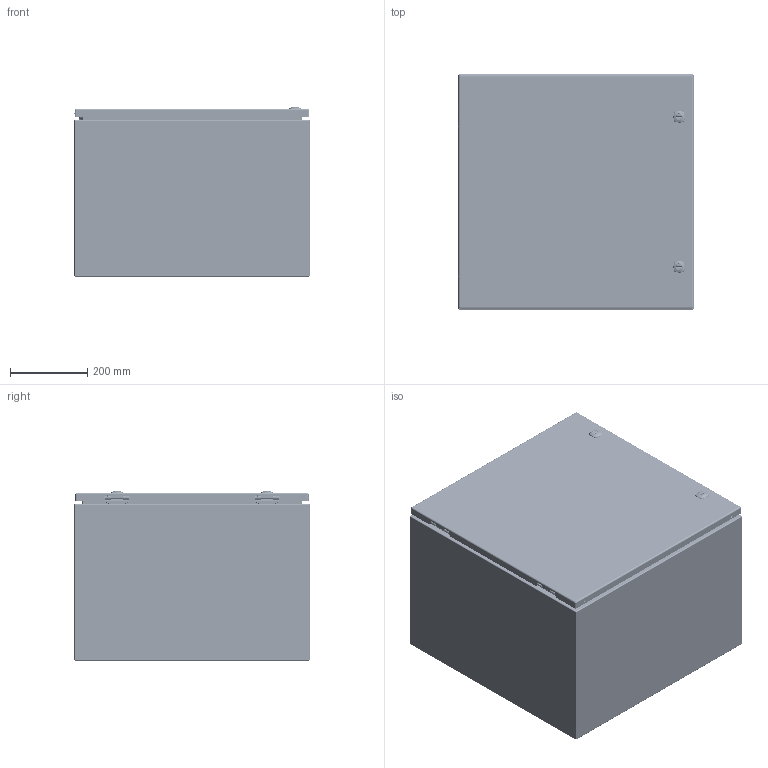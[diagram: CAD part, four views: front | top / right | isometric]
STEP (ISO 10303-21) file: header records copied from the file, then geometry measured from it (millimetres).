
FILE_DESCRIPTION(/* description */ ('5412ES 24" x 24" x 16" Assembly'),/* implementation_level */ '2;1');
FILE_NAME(/* name */ '5412ES242416.stp',/* time_stamp */ '2024-09-04T09:10:47-04:00',/* author */ ('BoxCad'),/* organization */ (''),/* preprocessor_version */ 'ST-DEVELOPER v20',/* originating_system */ 'Autodesk Inventor 2024',/* authorisation */ '');
FILE_SCHEMA (('AUTOMOTIVE_DESIGN { 1 0 10303 214 3 1 1 }'));
Products named in the file (44): 5412ES242416; 5412ES242416B; 5412ES242416B-P; STK-Q-16005; STUD_M6 x 16mm; 5412ES242416C; 5412ES242416C-P; 5412ES242416G; STK-K-09800-1; STK-K-09800-2; STK-Q-33014; STK-Q-90398; STK-Q-40095; STK-Q-63410; STK-Q-16055; STK-Q-46020-24; STK-Q-07220-1; STK-Q-07220-2; STK-Q-07220-3; STK-Q-07220-4; STK-Q-07220-A; STK-Q-07220-B; STK-P-02400S; STK-S-00100; STK-K-12500; STK-Q-78111; STK-Q-78141; STK-Q-78120; STK-Q-78145; STK-Q-03200; STK-Q-78160; STK-Q-90390; STK-Q-78111-R; STK-Q-04050-08-1; STK-Q-04050-08-2; STK-Q-04050-08-P; STK-Q-04051-N; STK-A-01800; 880 PP; 5412ES242416IPK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
Assembly tree (74 placements, depth 4):
  5412ES242416
    5412ES242416B
      5412ES242416B-P
      STK-Q-16005  x4
      STK-P-02400S
      STUD_M6 x 16mm
    5412ES242416C
      5412ES242416C-P
      5412ES242416G
      STK-K-09800-1
        STK-Q-33014
        STK-Q-90398
        STK-Q-40095  x2
        STK-Q-63410  x2
      STK-K-09800-2
        STK-Q-33014
        STK-Q-90398
        STK-Q-40095  x2
        STK-Q-63410  x2
      STK-Q-16055  x4
      STK-Q-46020-24  x2
      STK-Q-07220-1
        STK-Q-07220-A
        STK-Q-07220-B
      STK-Q-07220-2
        STK-Q-07220-A
        STK-Q-07220-B
      STK-Q-07220-3
        STK-Q-07220-A
        STK-Q-07220-B
      STK-Q-07220-4
        STK-Q-07220-A
        STK-Q-07220-B
      STK-P-02400S
      STK-S-00100
      STK-K-12500  x2
        STK-Q-78111
        STK-Q-78141
        STK-Q-78120
        STK-Q-78145
        STK-Q-03200
        STK-Q-78160
        STK-Q-90390
        STK-Q-78111-R
    STK-Q-04050-08-1
      STK-Q-04050-08-P
      STK-Q-04051-N
    STK-Q-04050-08-2
      STK-Q-04050-08-P
      STK-Q-04051-N
    STK-A-01800
    880 PP
    5412ES242416IPK
      STK-Q-07610  x4
      STK-Q-07310  x4
    881SP2424G
      881SP2424G-P
Bounding box: 609.67 x 609.6 x 439.67 mm (x, y, z)
Volume: 3643538.6 mm3; surface area: 4662302.1 mm2
Topology: 64 solids, 64 shells, 10066 faces, 26508 edges, 16587 vertices
Faces by surface type: bspline 3432, plane 3051, cylinder 2548, torus 679, sphere 220, cone 136
Full cylindrical faces by diameter (mm): 0 x1, 0.75 x9, 0.762 x9, 1 x8, 1.1 x8, 3.2 x4, 4.191 x40, 4.5 x4, 4.521 x8, 4.75 x2, 4.85 x16, 4.95 x4, 5 x4, 5.1 x30, 5.156 x4, 5.6 x2, 5.9 x25, 6.015 x40, 6.65 x4, 6.8 x4, 6.85 x16, 7.3 x2, 7.366 x4, 7.9 x8, 8 x12, 8.382 x2, 9.5 x4, 9.6 x2, 9.906 x4, 10 x2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
Entity records: 156547 total; most frequent: CARTESIAN_POINT 62324, ORIENTED_EDGE 21232, DIRECTION 15921, EDGE_CURVE 10616, VERTEX_POINT 6635, AXIS2_PLACEMENT_3D 5897, EDGE_LOOP 4399, FACE_OUTER_BOUND 4153
